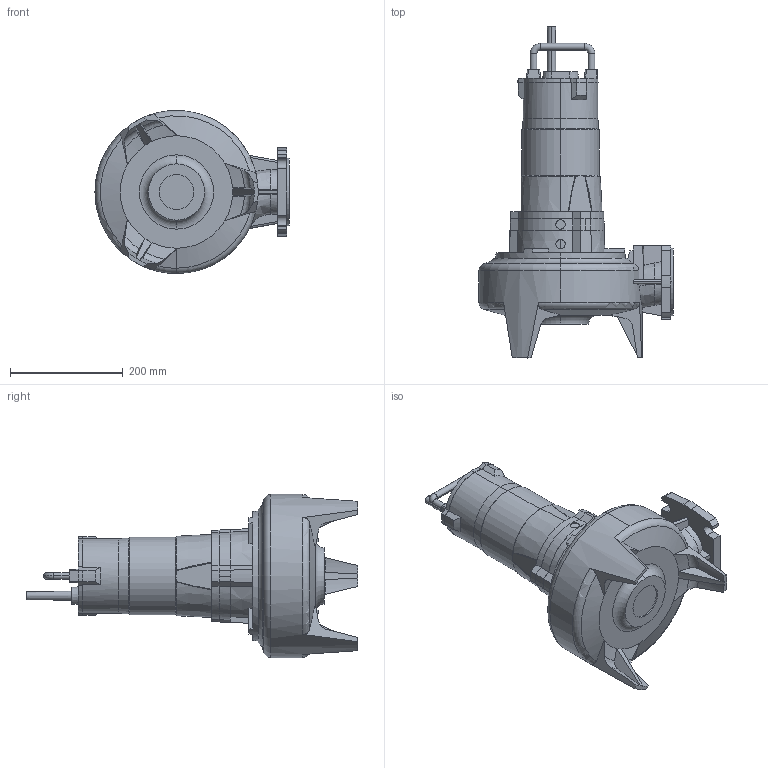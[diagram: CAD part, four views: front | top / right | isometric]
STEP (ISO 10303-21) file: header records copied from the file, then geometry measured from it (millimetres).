
FILE_DESCRIPTION (( 'STEP AP203' ), '1' );
FILE_NAME ('65FWC-M-52.STEP', '2025-03-22T08:52:27', ( '' ), ( '' ), 'SwSTEP 2.0', 'SolidWorks 2023', '' );
FILE_SCHEMA (( 'CONFIG_CONTROL_DESIGN' ));
Length unit declared in the file: millimetre
Products named in the file (1): 65FWC-M-52
Bounding box: 345 x 590 x 290 mm (x, y, z)
Volume: 12808899.3 mm3; surface area: 462584.2 mm2
Topology: 1 solids, 1 shells, 292 faces, 780 edges, 504 vertices
Faces by surface type: plane 127, cone 62, cylinder 61, torus 25, bspline 17
Entity records: 10679 total; most frequent: CARTESIAN_POINT 3655, ORIENTED_EDGE 1560, DIRECTION 1357, EDGE_CURVE 780, AXIS2_PLACEMENT_3D 533, VERTEX_POINT 504, EDGE_LOOP 308, ADVANCED_FACE 292
